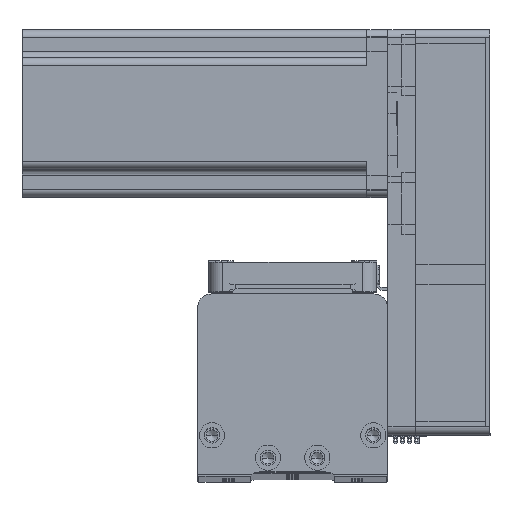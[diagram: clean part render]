
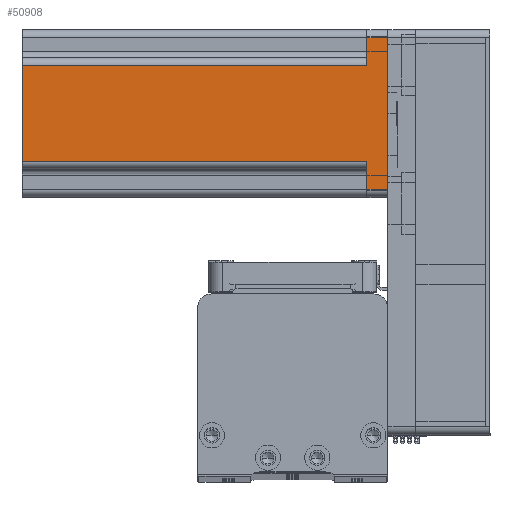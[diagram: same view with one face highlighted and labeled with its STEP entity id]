
A CAD part, top view. The second image highlights one B-rep face of the part: STEP entity #50908.
In plain terms, the highlighted planar face has unit normal (0, 0, 1) as drawn and (0, -1, 0) by its records, which use the part's own axes.
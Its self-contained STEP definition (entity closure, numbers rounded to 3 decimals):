
#550 = CARTESIAN_POINT ( 'NONE',  ( -27., -30., 7.5 ) ) ;
#1940 = ORIENTED_EDGE ( 'NONE', *, *, #8541, .T. ) ;
#3172 = VECTOR ( 'NONE', #24217, 1000. ) ;
#3230 = FACE_OUTER_BOUND ( 'NONE', #43216, .T. ) ;
#3521 = VECTOR ( 'NONE', #22924, 1000. ) ;
#4386 = CARTESIAN_POINT ( 'NONE',  ( -17., -30., 130.7 ) ) ;
#4536 = CARTESIAN_POINT ( 'NONE',  ( 17., -30., 7.5 ) ) ;
#6762 = VERTEX_POINT ( 'NONE', #14227 ) ;
#6999 = CARTESIAN_POINT ( 'NONE',  ( -20., -30., 7.5 ) ) ;
#8093 = CARTESIAN_POINT ( 'NONE',  ( 27., -30., 0. ) ) ;
#8261 = CARTESIAN_POINT ( 'NONE',  ( -17., -30., 130.7 ) ) ;
#8541 = EDGE_CURVE ( 'NONE', #36446, #19615, #16176, .T. ) ;
#9434 = CARTESIAN_POINT ( 'NONE',  ( 27., -30., 130.7 ) ) ;
#9674 = ORIENTED_EDGE ( 'NONE', *, *, #18844, .T. ) ;
#9804 = LINE ( 'NONE', #49434, #19097 ) ;
#10829 = DIRECTION ( 'NONE',  ( 1., 0., 0. ) ) ;
#12398 = DIRECTION ( 'NONE',  ( -1., 0., 0. ) ) ;
#12555 = VECTOR ( 'NONE', #15019, 1000. ) ;
#13492 = VERTEX_POINT ( 'NONE', #35047 ) ;
#14227 = CARTESIAN_POINT ( 'NONE',  ( -27., -30., 0. ) ) ;
#14337 = DIRECTION ( 'NONE',  ( 0., 1., 0. ) ) ;
#15019 = DIRECTION ( 'NONE',  ( 1., 0., 0. ) ) ;
#16034 = EDGE_CURVE ( 'NONE', #6762, #40138, #32861, .T. ) ;
#16176 = LINE ( 'NONE', #8261, #3172 ) ;
#16813 = VECTOR ( 'NONE', #26650, 1000. ) ;
#17998 = LINE ( 'NONE', #48287, #47294 ) ;
#18620 = CARTESIAN_POINT ( 'NONE',  ( -27., -30., 130.7 ) ) ;
#18844 = EDGE_CURVE ( 'NONE', #27892, #6762, #27407, .T. ) ;
#19097 = VECTOR ( 'NONE', #21508, 1000. ) ;
#19510 = ORIENTED_EDGE ( 'NONE', *, *, #49286, .T. ) ;
#19615 = VERTEX_POINT ( 'NONE', #33005 ) ;
#21508 = DIRECTION ( 'NONE',  ( 0., 0., 1. ) ) ;
#22127 = PLANE ( 'NONE',  #31859 ) ;
#22195 = VECTOR ( 'NONE', #10829, 1000. ) ;
#22924 = DIRECTION ( 'NONE',  ( 1., 0., 0. ) ) ;
#24030 = EDGE_CURVE ( 'NONE', #27903, #29035, #9804, .T. ) ;
#24217 = DIRECTION ( 'NONE',  ( 0., 0., -1. ) ) ;
#24674 = VECTOR ( 'NONE', #33309, 1000. ) ;
#26650 = DIRECTION ( 'NONE',  ( 0., 0., -1. ) ) ;
#26683 = CARTESIAN_POINT ( 'NONE',  ( 30., -30., 0. ) ) ;
#27407 = LINE ( 'NONE', #18620, #16813 ) ;
#27892 = VERTEX_POINT ( 'NONE', #550 ) ;
#27903 = VERTEX_POINT ( 'NONE', #4536 ) ;
#29035 = VERTEX_POINT ( 'NONE', #32087 ) ;
#29256 = EDGE_CURVE ( 'NONE', #40138, #13492, #34098, .T. ) ;
#31640 = EDGE_CURVE ( 'NONE', #27892, #19615, #35266, .T. ) ;
#31859 = AXIS2_PLACEMENT_3D ( 'NONE', #38259, #14337, #42234 ) ;
#32087 = CARTESIAN_POINT ( 'NONE',  ( 17., -30., 130.7 ) ) ;
#32538 = EDGE_CURVE ( 'NONE', #36446, #29035, #33810, .T. ) ;
#32861 = LINE ( 'NONE', #26683, #22195 ) ;
#33005 = CARTESIAN_POINT ( 'NONE',  ( -17., -30., 7.5 ) ) ;
#33309 = DIRECTION ( 'NONE',  ( 0., 0., 1. ) ) ;
#33810 = LINE ( 'NONE', #42878, #12555 ) ;
#34098 = LINE ( 'NONE', #9434, #24674 ) ;
#35047 = CARTESIAN_POINT ( 'NONE',  ( 27., -30., 7.5 ) ) ;
#35266 = LINE ( 'NONE', #6999, #3521 ) ;
#36446 = VERTEX_POINT ( 'NONE', #4386 ) ;
#38259 = CARTESIAN_POINT ( 'NONE',  ( 30., -30., 130.7 ) ) ;
#39092 = ORIENTED_EDGE ( 'NONE', *, *, #16034, .T. ) ;
#40138 = VERTEX_POINT ( 'NONE', #8093 ) ;
#40657 = ORIENTED_EDGE ( 'NONE', *, *, #29256, .T. ) ;
#42234 = DIRECTION ( 'NONE',  ( -1., 0., 0. ) ) ;
#42878 = CARTESIAN_POINT ( 'NONE',  ( 30., -30., 130.7 ) ) ;
#43216 = EDGE_LOOP ( 'NONE', ( #48822, #1940, #50839, #9674, #39092, #40657, #19510, #50176 ) ) ;
#47294 = VECTOR ( 'NONE', #12398, 1000. ) ;
#48287 = CARTESIAN_POINT ( 'NONE',  ( 20., -30., 7.5 ) ) ;
#48822 = ORIENTED_EDGE ( 'NONE', *, *, #32538, .F. ) ;
#49286 = EDGE_CURVE ( 'NONE', #13492, #27903, #17998, .T. ) ;
#49434 = CARTESIAN_POINT ( 'NONE',  ( 17., -30., 130.7 ) ) ;
#50176 = ORIENTED_EDGE ( 'NONE', *, *, #24030, .T. ) ;
#50839 = ORIENTED_EDGE ( 'NONE', *, *, #31640, .F. ) ;
#50908 = ADVANCED_FACE ( 'NONE', ( #3230 ), #22127, .F. ) ;
